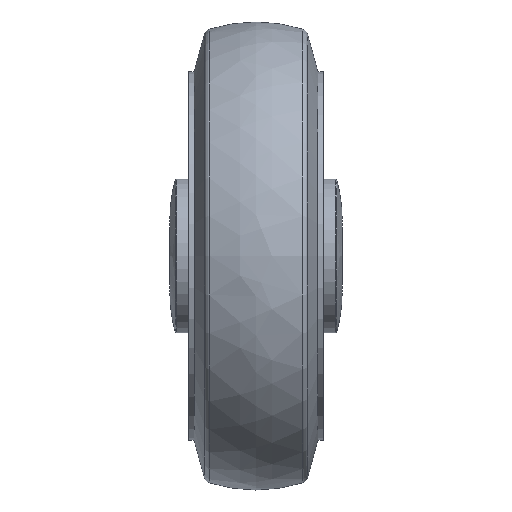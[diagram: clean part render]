
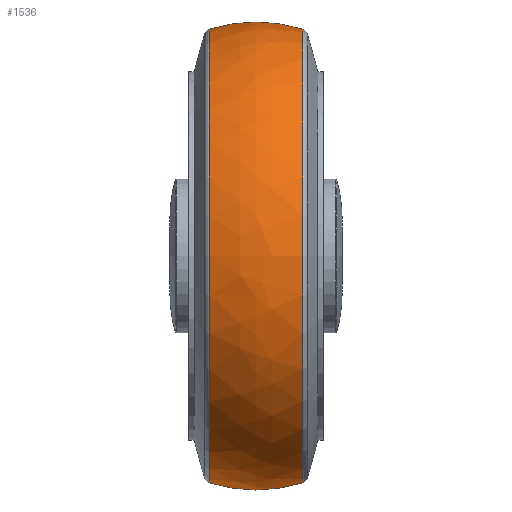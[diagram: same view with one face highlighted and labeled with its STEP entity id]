
A CAD part, top view. The second image highlights one B-rep face of the part: STEP entity #1536.
In plain terms, the highlighted free-form (B-spline) face has degree [3, 3] with [7, 4] control points.
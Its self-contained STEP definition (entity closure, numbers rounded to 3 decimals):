
#1226=CARTESIAN_POINT('',(-12.452,0.,0.));
#1227=DIRECTION('',(-1.,0.,0.));
#1228=DIRECTION('',(0.,-1.,0.));
#1229=AXIS2_PLACEMENT_3D('',#1226,#1227,#1228);
#1231=CARTESIAN_POINT('',(12.452,0.,0.));
#1232=DIRECTION('',(-1.,0.,0.));
#1233=DIRECTION('',(0.,-1.,0.));
#1234=AXIS2_PLACEMENT_3D('',#1231,#1232,#1233);
#1307=CARTESIAN_POINT('',(0.,-20.875,0.));
#1308=DIRECTION('',(0.,0.,-1.));
#1309=DIRECTION('',(0.299,-0.954,0.));
#1310=AXIS2_PLACEMENT_3D('',#1307,#1308,#1309);
#1317=CARTESIAN_POINT('',(0.,20.875,0.));
#1318=DIRECTION('',(0.,0.,1.));
#1319=DIRECTION('',(0.299,0.954,0.));
#1320=AXIS2_PLACEMENT_3D('',#1317,#1318,#1319);
#1351=CARTESIAN_POINT('',(-12.452,60.594,0.));
#1352=CARTESIAN_POINT('',(-12.452,-60.594,
0.));
#1353=VERTEX_POINT('',#1351);
#1354=VERTEX_POINT('',#1352);
#1355=CARTESIAN_POINT('',(12.452,-60.594,0.));
#1356=CARTESIAN_POINT('',(12.452,60.594,
0.));
#1357=VERTEX_POINT('',#1355);
#1358=VERTEX_POINT('',#1356);
#1498=CARTESIAN_POINT('',(-12.934,60.32,
-3.795));
#1499=CARTESIAN_POINT('',(-4.458,63.085,
-3.969));
#1500=CARTESIAN_POINT('',(4.458,63.085,-3.969));
#1501=CARTESIAN_POINT('',(12.934,60.32,-3.795));
#1502=CARTESIAN_POINT('',(-12.934,62.656,33.326));
#1503=CARTESIAN_POINT('',(-4.458,65.528,34.854));
#1504=CARTESIAN_POINT('',(4.458,65.528,34.854));
#1505=CARTESIAN_POINT('',(12.934,62.656,33.326));
#1506=CARTESIAN_POINT('',(-12.934,37.194,60.44));
#1507=CARTESIAN_POINT('',(-4.458,38.899,63.21));
#1508=CARTESIAN_POINT('',(4.458,38.899,63.21));
#1509=CARTESIAN_POINT('',(12.934,37.194,60.44));
#1510=CARTESIAN_POINT('',(-12.934,0.,60.44));
#1511=CARTESIAN_POINT('',(-4.458,0.,63.21));
#1512=CARTESIAN_POINT('',(4.458,0.,63.21));
#1513=CARTESIAN_POINT('',(12.934,0.,60.44));
#1514=CARTESIAN_POINT('',(-12.934,-37.194,
60.44));
#1515=CARTESIAN_POINT('',(-4.458,-38.899,
63.21));
#1516=CARTESIAN_POINT('',(4.458,-38.899,63.21));
#1517=CARTESIAN_POINT('',(12.934,-37.194,60.44));
#1518=CARTESIAN_POINT('',(-12.934,-62.656,
33.326));
#1519=CARTESIAN_POINT('',(-4.458,-65.528,
34.854));
#1520=CARTESIAN_POINT('',(4.458,-65.528,34.854));
#1521=CARTESIAN_POINT('',(12.934,-62.656,33.326));
#1522=CARTESIAN_POINT('',(-12.934,-60.32,
-3.795));
#1523=CARTESIAN_POINT('',(-4.458,-63.085,
-3.969));
#1524=CARTESIAN_POINT('',(4.458,-63.085,
-3.969));
#1525=CARTESIAN_POINT('',(12.934,-60.32,
-3.795));
#1526=(BOUNDED_SURFACE()B_SPLINE_SURFACE(3,3,((#1498,#1499,#1500,#1501),(#1502,
#1503,#1504,#1505),(#1506,#1507,#1508,#1509),(#1510,#1511,#1512,#1513),(#1514,
#1515,#1516,#1517),(#1518,#1519,#1520,#1521),(#1522,#1523,#1524,#1525)),
.UNSPECIFIED.,.F.,.F.,.F.)B_SPLINE_SURFACE_WITH_KNOTS((4,3,4),(4,4),(0.,1.,
2.),(0.,1.),.UNSPECIFIED.)GEOMETRIC_REPRESENTATION_ITEM()RATIONAL_B_SPLINE_SURFACE(((1.217,1.177,1.177,1.217),(
0.961,0.93,0.93,0.961),(
0.961,0.93,0.93,0.961),(
1.217,1.177,1.177,1.217),(
0.961,0.93,0.93,0.961),(
0.961,0.93,0.93,0.961),(
1.217,1.177,1.177,1.217)))REPRESENTATION_ITEM('')SURFACE());
#1528=ORIENTED_EDGE('',*,*,#1527,.T.);
#1530=ORIENTED_EDGE('',*,*,#1529,.F.);
#1531=ORIENTED_EDGE('',*,*,#1481,.F.);
#1533=ORIENTED_EDGE('',*,*,#1532,.T.);
#1534=EDGE_LOOP('',(#1528,#1530,#1531,#1533));
#1535=FACE_OUTER_BOUND('',#1534,.F.);
#1230=CIRCLE('',#1229,60.594);
#1235=CIRCLE('',#1234,60.594);
#1311=CIRCLE('',#1310,41.625);
#1321=CIRCLE('',#1320,41.625);
#1481=EDGE_CURVE('',#1357,#1358,#1235,.T.);
#1527=EDGE_CURVE('',#1354,#1353,#1230,.T.);
#1529=EDGE_CURVE('',#1358,#1353,#1321,.T.);
#1532=EDGE_CURVE('',#1357,#1354,#1311,.T.);
#1536=ADVANCED_FACE('',(#1535),#1526,.T.);
